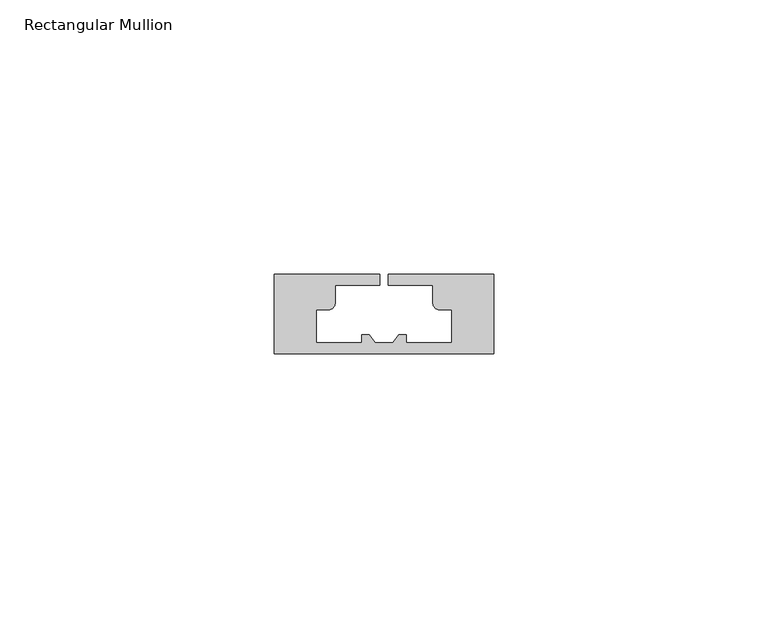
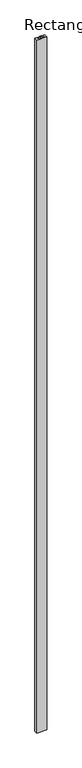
"""IFC4 building model written with IfcOpenShell, lengths in millimetres: member geometry, Rectangular Mullion : NLRS_21_CWM_drager SD.014_Storax."""

from ifc_helpers import new_model, si_unit, point, frame, frame_2d, origin, place, context, project, spatial, polyline, circle_curve, trimmed, segment, composite_curve, outline, extrude, source, transform, mapped, element, save


def rectangular_mullion_3facce28(model_context):
    return source(origin(), model_context, "Body", "SweptSolid", [
        extrude(outline(composite_curve([segment(polyline([(-20.0, -1.0), (-0.7528633, -1.0), (-0.7528633, -3.0), (-8.9220615, -3.0), (-8.9220615, -6.2788187)]), True, "CONTINUOUS"), segment(trimmed(circle_curve(frame_2d((-10.1231703, -6.2788187)), 1.2011087), [point((-8.9220615, -6.2788187))], [point((-10.1231703, -7.4799274))], False, "CARTESIAN"), True, "CONTINUOUS"), segment(polyline([(-10.1231703, -7.4799274), (-12.3724438, -7.4799274), (-12.3724438, -13.5), (-4.0479621, -13.5), (-4.0479621, -12.0), (-2.694768, -12.0), (-1.6049542, -13.5), (1.6049542, -13.5), (2.694768, -12.0), (4.0479621, -12.0), (4.0479621, -13.5), (12.3724438, -13.5), (12.3724438, -7.4799274), (10.1231703, -7.4799274)]), True, "CONTINUOUS"), segment(trimmed(circle_curve(frame_2d((10.1231703, -6.2788187)), 1.2011087), [point((10.1231703, -7.4799274))], [point((8.9220615, -6.2788187))], False, "CARTESIAN"), True, "CONTINUOUS"), segment(polyline([(8.9220615, -6.2788187), (8.9220615, -3.0), (0.7528633, -3.0), (0.7528633, -1.0), (20.0, -1.0), (20.0, -15.5), (-20.0, -15.5), (-20.0, -1.0)]), True, "CONTINUOUS")], self_intersect=False)), frame((0.0, 0.0, -3000.0), z_axis=(0.0, 0.0, 1.0), x_axis=(1.0, 0.0, 0.0)), (0.0, 0.0, 1.0), 3000.0),
    ])


if __name__ == "__main__":
    model = new_model("IFC4")
    model_context = context("Model", 3, world=origin())
    ifc_project = project(units=[si_unit("LENGTHUNIT", "METRE", prefix="MILLI")], contexts=[model_context])
    site = spatial("IfcSite", under=ifc_project)
    building = spatial("IfcBuilding", under=site)
    placement = place(None, origin())
    rectangular_mullion_shape = rectangular_mullion_3facce28(model_context)
    element("IfcMember", 1, ObjectType="Rectangular Mullion : NLRS_21_CWM_drager SD.014_Storax", at=placement, inside=building, context=model_context, shape_type="MappedRepresentation", body=[
        mapped(rectangular_mullion_shape, transform((0.0, 0.0, 0.0), x_axis=(1.0, 0.0, 0.0), y_axis=(0.0, 1.0, 0.0), z_axis=(0.0, 0.0, 1.0))),
    ])
    save(model, "model.ifc")
